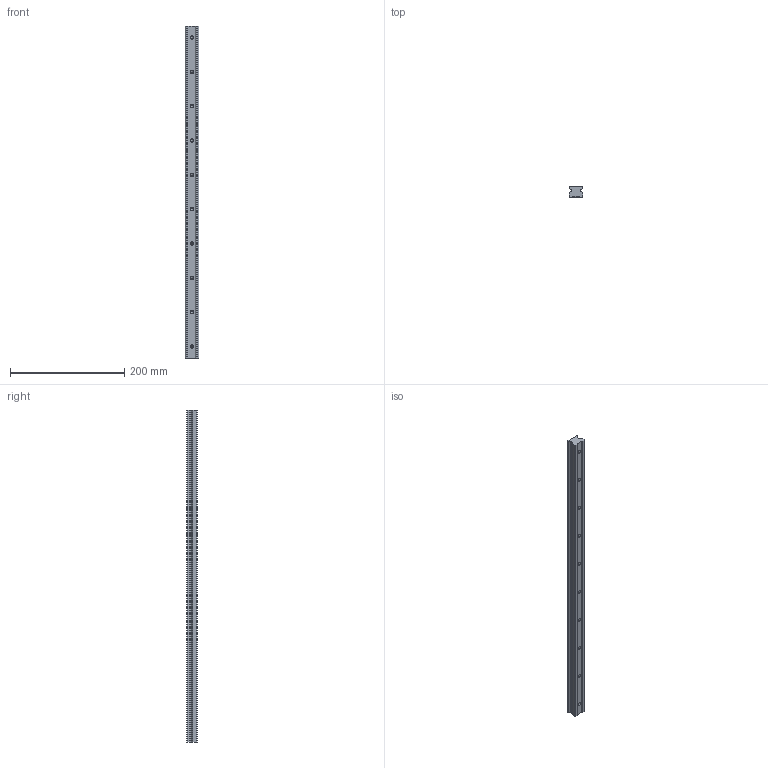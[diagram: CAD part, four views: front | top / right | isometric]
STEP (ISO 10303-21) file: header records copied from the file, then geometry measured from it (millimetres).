
FILE_DESCRIPTION (( 'STEP AP203' ), '1' );
FILE_NAME ('L1016.BRF25-0580.step', '2019-06-13T08:35:14', ( '' ), ( '' ), 'SwSTEP 2.0', 'SolidWorks 2017', '' );
FILE_SCHEMA (( 'CONFIG_CONTROL_DESIGN' ));
Length unit declared in the file: millimetre
Products named in the file (1): L1016.BRF25-0580
Bounding box: 23 x 19.2 x 580 mm (x, y, z)
Volume: 221337.2 mm3; surface area: 54072.7 mm2
Topology: 1 solids, 1 shells, 96 faces, 232 edges, 138 vertices
Faces by surface type: cylinder 44, plane 32, cone 20
Entity records: 2741 total; most frequent: DIRECTION 494, CARTESIAN_POINT 447, ORIENTED_EDGE 424, EDGE_CURVE 212, AXIS2_PLACEMENT_3D 185, VERTEX_POINT 138, VECTOR 124, LINE 124
